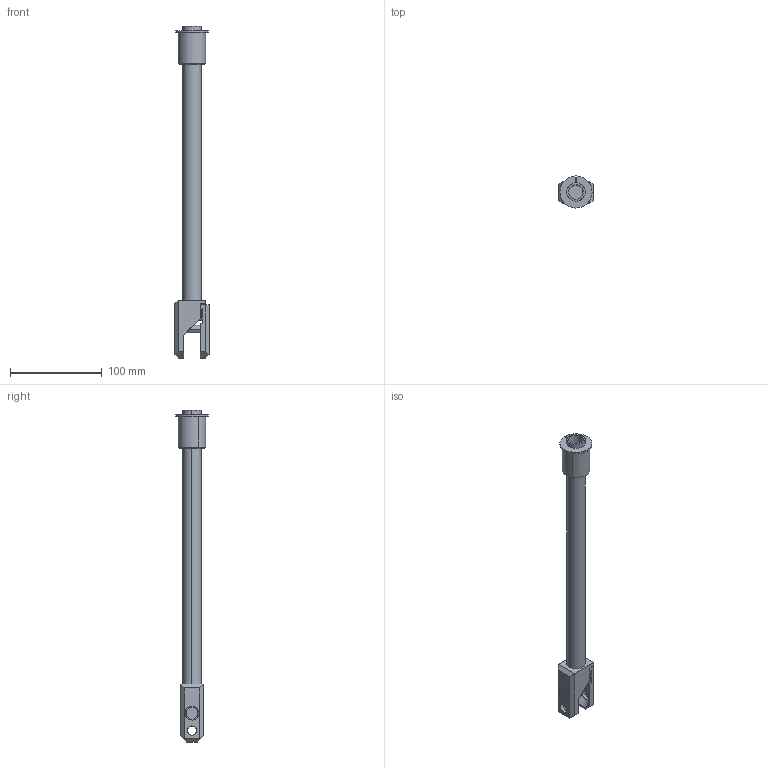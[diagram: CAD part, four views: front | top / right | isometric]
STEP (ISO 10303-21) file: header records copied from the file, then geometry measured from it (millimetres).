
FILE_DESCRIPTION(('CATIA V5 STEP Exchange'),'2;1');
FILE_NAME('\\192.168.0.251\product engineering department\2-PDD Database\6-Gripping\500-Other product\2-Euro gripper system\Euro Gripper to customer\Euro gripper-3D model for design-V2\EGT192.stp','2012-10-19T07:20:02+00:00',('none'),('none'),'CATIA Version 5 Release 19 SP 2 (IN-10)','CATIA V5 STEP AP203','none');
FILE_SCHEMA(('CONFIG_CONTROL_DESIGN'));
Length unit declared in the file: millimetre
Products named in the file (1): EGT192
Bounding box: 38 x 34.97 x 362.5 mm (x, y, z)
Volume: 81068.1 mm3; surface area: 57435.7 mm2
Topology: 5 solids, 5 shells, 84 faces, 213 edges, 140 vertices
Faces by surface type: plane 48, cylinder 29, cone 7
Entity records: 2623 total; most frequent: CARTESIAN_POINT 604, ORIENTED_EDGE 426, DIRECTION 346, EDGE_CURVE 213, VECTOR 140, LINE 140, VERTEX_POINT 140, AXIS2_PLACEMENT_3D 133
